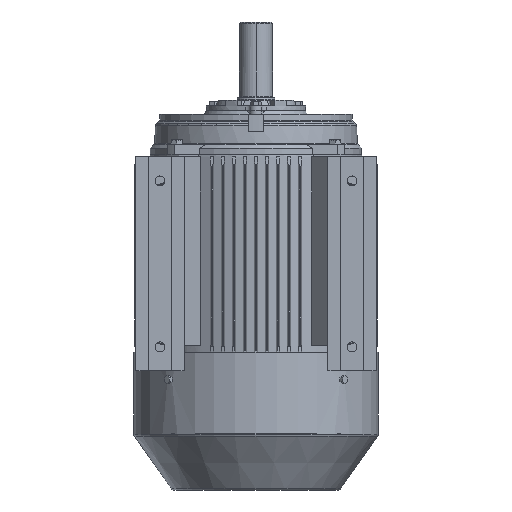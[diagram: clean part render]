
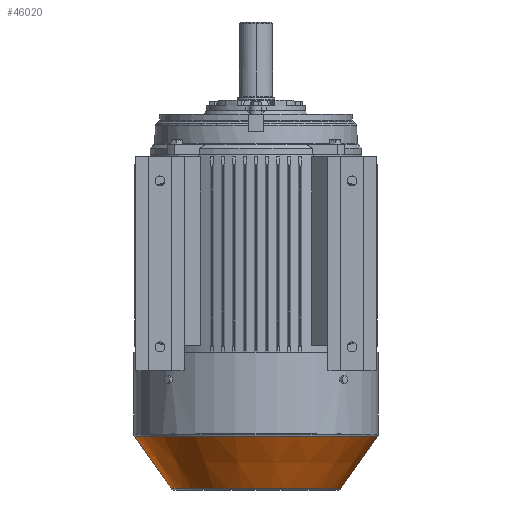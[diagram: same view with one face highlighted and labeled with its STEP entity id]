
A CAD part, front view. The second image highlights one B-rep face of the part: STEP entity #46020.
In plain terms, the highlighted conical face has half-angle 35 degrees and reference radius 176.596 mm.
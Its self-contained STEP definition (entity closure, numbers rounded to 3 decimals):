
#2732 = DIRECTION ( 'NONE',  ( -0.819, 0., 0.574 ) ) ;
#2740 = CARTESIAN_POINT ( 'NONE',  ( -75.212, 0., -176.596 ) ) ;
#2742 = CARTESIAN_POINT ( 'NONE',  ( -75.212, 0., 176.596 ) ) ;
#2751 = DIRECTION ( 'NONE',  ( -0.819, 0., -0.574 ) ) ;
#6168 = AXIS2_PLACEMENT_3D ( 'NONE', #67425, #67419, #67407 ) ;
#8389 = EDGE_LOOP ( 'NONE', ( #20005, #20007, #20008, #20010 ) ) ;
#14025 = EDGE_CURVE ( 'NONE', #31866, #31863, #54678, .T. ) ;
#14026 = EDGE_CURVE ( 'NONE', #31826, #31860, #54681, .T. ) ;
#20005 = ORIENTED_EDGE ( 'NONE', *, *, #14026, .F. ) ;
#20007 = ORIENTED_EDGE ( 'NONE', *, *, #93919, .F. ) ;
#20008 = ORIENTED_EDGE ( 'NONE', *, *, #14025, .T. ) ;
#20010 = ORIENTED_EDGE ( 'NONE', *, *, #93922, .T. ) ;
#21138 = AXIS2_PLACEMENT_3D ( 'NONE', #66398, #66399, #66400 ) ;
#21141 = AXIS2_PLACEMENT_3D ( 'NONE', #66401, #66402, #66403 ) ;
#31826 = VERTEX_POINT ( 'NONE', #68909 ) ;
#31860 = VERTEX_POINT ( 'NONE', #68921 ) ;
#31863 = VERTEX_POINT ( 'NONE', #68922 ) ;
#31866 = VERTEX_POINT ( 'NONE', #68923 ) ;
#46020 = ADVANCED_FACE ( 'NONE', ( #62084 ), #62093, .T. ) ;
#54678 = LINE ( 'NONE', #2742, #54685 ) ;
#54681 = LINE ( 'NONE', #2740, #54688 ) ;
#54685 = VECTOR ( 'NONE', #2732, 1000. ) ;
#54688 = VECTOR ( 'NONE', #2751, 1000. ) ;
#62084 = FACE_OUTER_BOUND ( 'NONE', #8389, .T. ) ;
#62093 = CONICAL_SURFACE ( 'NONE', #6168, 176.596, 0.611 ) ;
#65335 = CIRCLE ( 'NONE', #21141, 176.596 ) ;
#65352 = CIRCLE ( 'NONE', #21138, 122.881 ) ;
#66398 = CARTESIAN_POINT ( 'NONE',  ( 1.5, 0., 0. ) ) ;
#66399 = DIRECTION ( 'NONE',  ( 1., 0., 0. ) ) ;
#66400 = DIRECTION ( 'NONE',  ( 0., 0., -1. ) ) ;
#66401 = CARTESIAN_POINT ( 'NONE',  ( -75.212, 0., 0. ) ) ;
#66402 = DIRECTION ( 'NONE',  ( 1., 0., 0. ) ) ;
#66403 = DIRECTION ( 'NONE',  ( 0., 0., -1. ) ) ;
#67407 = DIRECTION ( 'NONE',  ( 0., 0., 1. ) ) ;
#67419 = DIRECTION ( 'NONE',  ( -1., 0., 0. ) ) ;
#67425 = CARTESIAN_POINT ( 'NONE',  ( -75.212, 0., 0. ) ) ;
#68909 = CARTESIAN_POINT ( 'NONE',  ( 1.5, 0., -122.881 ) ) ;
#68921 = CARTESIAN_POINT ( 'NONE',  ( -75.212, 0., -176.596 ) ) ;
#68922 = CARTESIAN_POINT ( 'NONE',  ( -75.212, 0., 176.596 ) ) ;
#68923 = CARTESIAN_POINT ( 'NONE',  ( 1.5, 0., 122.881 ) ) ;
#93919 = EDGE_CURVE ( 'NONE', #31866, #31826, #65352, .T. ) ;
#93922 = EDGE_CURVE ( 'NONE', #31863, #31860, #65335, .T. ) ;
